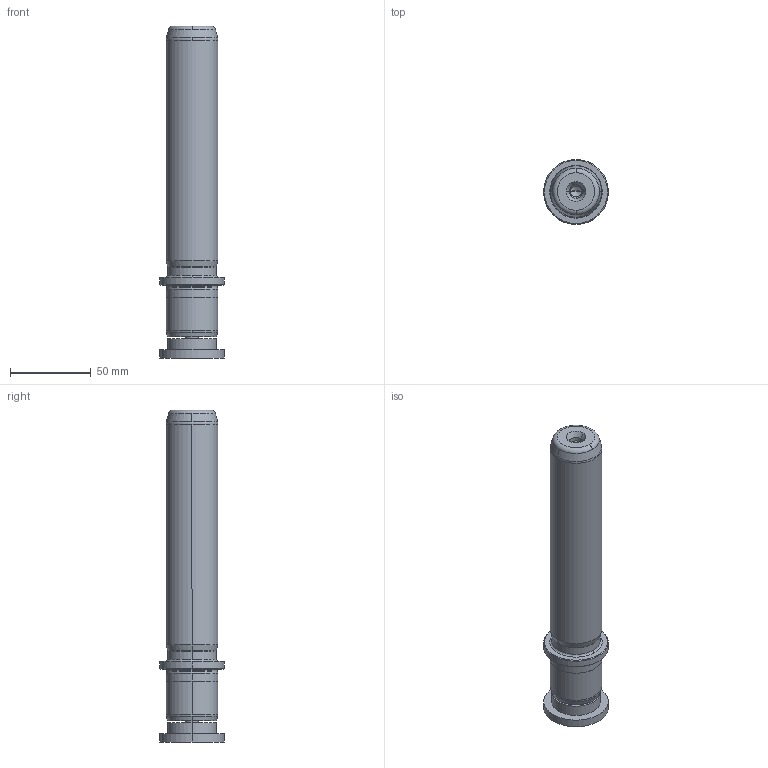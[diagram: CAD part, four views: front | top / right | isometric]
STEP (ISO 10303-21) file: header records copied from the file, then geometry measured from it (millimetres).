
FILE_DESCRIPTION((''),'2;1');
FILE_NAME('P22_032_160.stp','2009-02-03T14:01:40',(''),(''),'Mechanical Desktop 2009','Mechanical Desktop 2009',', , ');
FILE_SCHEMA(('CONFIG_CONTROL_DESIGN'));
Length unit declared in the file: millimetre
Products named in the file (2): Product; blmdl1
Assembly tree (1 placements, depth 2):
  Product
    blmdl1
Bounding box: 40 x 40 x 205 mm (x, y, z)
Volume: 163999.9 mm3; surface area: 27890.5 mm2
Topology: 3 solids, 3 shells, 99 faces, 237 edges, 149 vertices
Faces by surface type: cylinder 32, cone 28, plane 19, torus 10, bspline 10
Entity records: 3419 total; most frequent: CARTESIAN_POINT 923, DIRECTION 570, ORIENTED_EDGE 466, AXIS2_PLACEMENT_3D 246, EDGE_CURVE 233, CIRCLE 155, VERTEX_POINT 149, EDGE_LOOP 110
